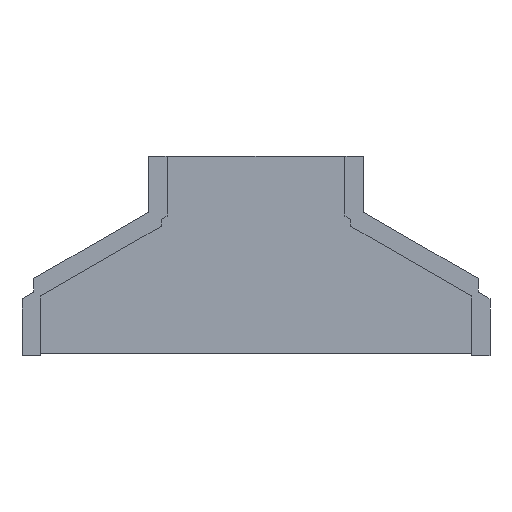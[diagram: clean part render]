
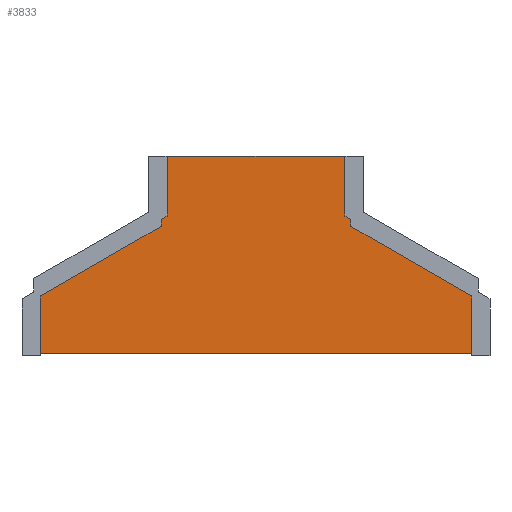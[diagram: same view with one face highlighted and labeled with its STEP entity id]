
A CAD part, front view. The second image highlights one B-rep face of the part: STEP entity #3833.
In plain terms, the highlighted planar face has unit normal (0, -1, 0).
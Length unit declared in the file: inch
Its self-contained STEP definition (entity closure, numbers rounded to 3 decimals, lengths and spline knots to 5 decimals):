
#3682=DIRECTION('',(0.,0.,-1.));
#3683=VECTOR('',#3682,5.9375);
#3684=CARTESIAN_POINT('',(8.9375,0.,0.));
#3685=LINE('',#3684,#3683);
#3686=DIRECTION('',(0.866,0.,-0.5));
#3687=VECTOR('',#3686,13.85641);
#3688=CARTESIAN_POINT('',(8.9375,0.,-5.9375));
#3689=LINE('',#3688,#3687);
#3690=DIRECTION('',(0.,0.,-1.));
#3691=VECTOR('',#3690,5.8125);
#3692=CARTESIAN_POINT('',(20.9375,0.,-12.8657));
#3693=LINE('',#3692,#3691);
#3694=DIRECTION('',(-1.,0.,0.));
#3695=VECTOR('',#3694,41.875);
#3696=CARTESIAN_POINT('',(20.9375,0.,-18.6782));
#3697=LINE('',#3696,#3695);
#3698=DIRECTION('',(0.,0.,1.));
#3699=VECTOR('',#3698,5.8125);
#3700=CARTESIAN_POINT('',(-20.9375,0.,-18.6782));
#3701=LINE('',#3700,#3699);
#3702=DIRECTION('',(0.866,0.,0.5));
#3703=VECTOR('',#3702,13.85641);
#3704=CARTESIAN_POINT('',(-20.9375,0.,-12.8657));
#3705=LINE('',#3704,#3703);
#3706=DIRECTION('',(0.,0.,1.));
#3707=VECTOR('',#3706,5.9375);
#3708=CARTESIAN_POINT('',(-8.9375,0.,-5.9375));
#3709=LINE('',#3708,#3707);
#3710=DIRECTION('',(1.,0.,0.));
#3711=VECTOR('',#3710,17.875);
#3712=CARTESIAN_POINT('',(-8.9375,0.,0.));
#3713=LINE('',#3712,#3711);
#3778=CARTESIAN_POINT('',(-20.9375,0.,-12.8657));
#3779=CARTESIAN_POINT('',(-8.9375,0.,-5.9375));
#3780=VERTEX_POINT('',#3778);
#3781=VERTEX_POINT('',#3779);
#3782=CARTESIAN_POINT('',(-8.9375,0.,0.));
#3783=VERTEX_POINT('',#3782);
#3784=CARTESIAN_POINT('',(8.9375,0.,0.));
#3785=VERTEX_POINT('',#3784);
#3794=CARTESIAN_POINT('',(8.9375,0.,-5.9375));
#3795=VERTEX_POINT('',#3794);
#3796=CARTESIAN_POINT('',(20.9375,0.,-12.8657));
#3797=VERTEX_POINT('',#3796);
#3798=CARTESIAN_POINT('',(20.9375,0.,-18.6782));
#3799=VERTEX_POINT('',#3798);
#3800=CARTESIAN_POINT('',(-20.9375,0.,-18.6782));
#3801=VERTEX_POINT('',#3800);
#3810=CARTESIAN_POINT('',(0.,0.,0.));
#3811=DIRECTION('',(0.,1.,0.));
#3812=DIRECTION('',(1.,0.,0.));
#3813=AXIS2_PLACEMENT_3D('',#3810,#3811,#3812);
#3814=PLANE('',#3813);
#3816=ORIENTED_EDGE('',*,*,#3815,.T.);
#3818=ORIENTED_EDGE('',*,*,#3817,.T.);
#3820=ORIENTED_EDGE('',*,*,#3819,.T.);
#3822=ORIENTED_EDGE('',*,*,#3821,.T.);
#3824=ORIENTED_EDGE('',*,*,#3823,.T.);
#3826=ORIENTED_EDGE('',*,*,#3825,.T.);
#3828=ORIENTED_EDGE('',*,*,#3827,.T.);
#3830=ORIENTED_EDGE('',*,*,#3829,.T.);
#3831=EDGE_LOOP('',(#3816,#3818,#3820,#3822,#3824,#3826,#3828,#3830));
#3832=FACE_OUTER_BOUND('',#3831,.F.);
#3833=ADVANCED_FACE('',(#3832),#3814,.F.);
#3815=EDGE_CURVE('',#3785,#3795,#3685,.T.);
#3817=EDGE_CURVE('',#3795,#3797,#3689,.T.);
#3819=EDGE_CURVE('',#3797,#3799,#3693,.T.);
#3821=EDGE_CURVE('',#3799,#3801,#3697,.T.);
#3823=EDGE_CURVE('',#3801,#3780,#3701,.T.);
#3825=EDGE_CURVE('',#3780,#3781,#3705,.T.);
#3827=EDGE_CURVE('',#3781,#3783,#3709,.T.);
#3829=EDGE_CURVE('',#3783,#3785,#3713,.T.);
